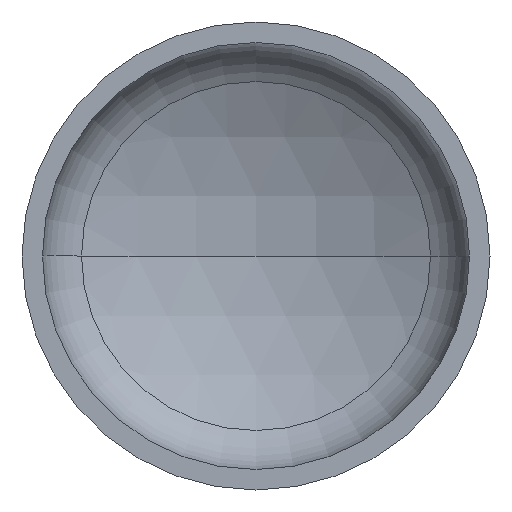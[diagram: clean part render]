
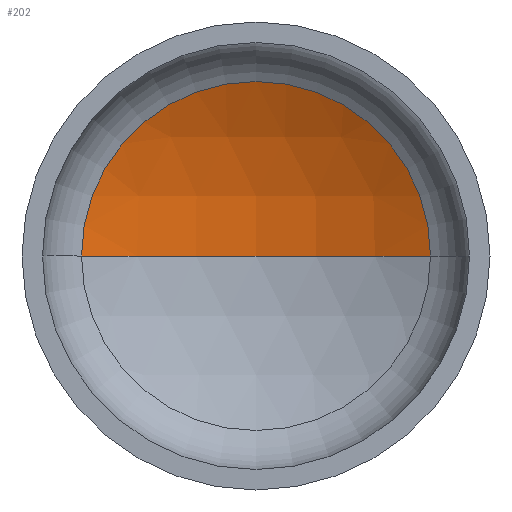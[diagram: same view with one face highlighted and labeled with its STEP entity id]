
A CAD part, front view. The second image highlights one B-rep face of the part: STEP entity #202.
In plain terms, the highlighted spherical face has radius 640 mm.
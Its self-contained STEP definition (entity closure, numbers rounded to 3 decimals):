
#32 = AXIS2_PLACEMENT_3D ( 'NONE', #353, #373, #189 ) ;
#41 = ORIENTED_EDGE ( 'NONE', *, *, #82, .T. ) ;
#42 = AXIS2_PLACEMENT_3D ( 'NONE', #45, #401, #411 ) ;
#44 = AXIS2_PLACEMENT_3D ( 'NONE', #378, #360, #386 ) ;
#45 = CARTESIAN_POINT ( 'NONE',  ( 0., -345.659, 0. ) ) ;
#47 = AXIS2_PLACEMENT_3D ( 'NONE', #387, #362, #388 ) ;
#77 = EDGE_CURVE ( 'NONE', #130, #380, #97, .T. ) ;
#82 = EDGE_CURVE ( 'NONE', #272, #130, #384, .T. ) ;
#83 = FACE_OUTER_BOUND ( 'NONE', #316, .T. ) ;
#87 = EDGE_CURVE ( 'NONE', #272, #380, #235, .T. ) ;
#97 = CIRCLE ( 'NONE', #47, 298.252 ) ;
#102 = CARTESIAN_POINT ( 'NONE',  ( -298.252, 220.597, 0. ) ) ;
#130 = VERTEX_POINT ( 'NONE', #229 ) ;
#146 = SPHERICAL_SURFACE ( 'NONE', #32, 640. ) ;
#157 = ORIENTED_EDGE ( 'NONE', *, *, #87, .F. ) ;
#189 = DIRECTION ( 'NONE',  ( -1., 0., 0. ) ) ;
#202 = ADVANCED_FACE ( 'NONE', ( #83 ), #146, .F. ) ;
#229 = CARTESIAN_POINT ( 'NONE',  ( 298.252, 220.597, 0. ) ) ;
#235 = CIRCLE ( 'NONE', #42, 640. ) ;
#272 = VERTEX_POINT ( 'NONE', #327 ) ;
#305 = ORIENTED_EDGE ( 'NONE', *, *, #77, .T. ) ;
#316 = EDGE_LOOP ( 'NONE', ( #157, #41, #305 ) ) ;
#327 = CARTESIAN_POINT ( 'NONE',  ( 0., 294.341, 0. ) ) ;
#353 = CARTESIAN_POINT ( 'NONE',  ( 0., -345.659, 0. ) ) ;
#360 = DIRECTION ( 'NONE',  ( 0., 0., -1. ) ) ;
#362 = DIRECTION ( 'NONE',  ( 0., -1., 0. ) ) ;
#373 = DIRECTION ( 'NONE',  ( 0., 0., -1. ) ) ;
#378 = CARTESIAN_POINT ( 'NONE',  ( 0., -345.659, 0. ) ) ;
#380 = VERTEX_POINT ( 'NONE', #102 ) ;
#384 = CIRCLE ( 'NONE', #44, 640. ) ;
#386 = DIRECTION ( 'NONE',  ( -1., 0., 0. ) ) ;
#387 = CARTESIAN_POINT ( 'NONE',  ( 0., 220.597, 0. ) ) ;
#388 = DIRECTION ( 'NONE',  ( 1., 0., 0. ) ) ;
#401 = DIRECTION ( 'NONE',  ( 0., 0., 1. ) ) ;
#411 = DIRECTION ( 'NONE',  ( 1., 0., 0. ) ) ;
